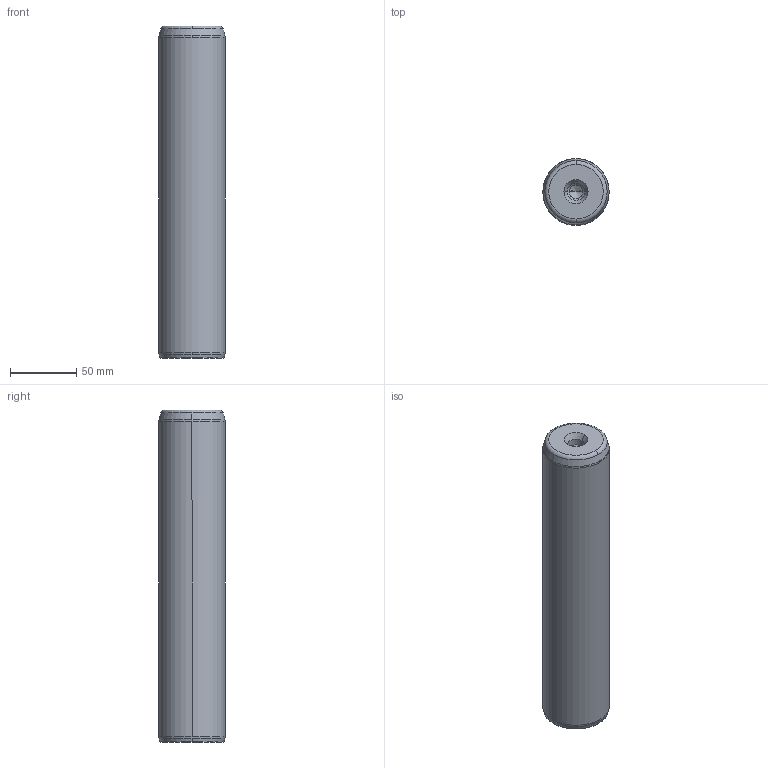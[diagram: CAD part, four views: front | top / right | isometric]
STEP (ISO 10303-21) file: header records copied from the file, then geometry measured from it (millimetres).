
FILE_DESCRIPTION((''),'2;1');
FILE_NAME('P10_050_250.stp','2008-12-23T16:13:52',(''),(''),'Mechanical Desktop 2009','Mechanical Desktop 2009',', , ');
FILE_SCHEMA(('CONFIG_CONTROL_DESIGN'));
Length unit declared in the file: millimetre
Products named in the file (5): Product; ProductAA; blmdl1; ProductA; blmdl1A
Assembly tree (2 placements, depth 3):
  Product
    ProductAA
      blmdl1
  ProductA
  blmdl1A
Bounding box: 50 x 50 x 250 mm (x, y, z)
Volume: 485236.5 mm3; surface area: 43833 mm2
Topology: 1 solids, 1 shells, 26 faces, 66 edges, 41 vertices
Faces by surface type: cone 10, torus 8, cylinder 6, plane 2
Entity records: 1012 total; most frequent: DIRECTION 170, CARTESIAN_POINT 134, ORIENTED_EDGE 128, AXIS2_PLACEMENT_3D 77, EDGE_CURVE 64, CIRCLE 48, VERTEX_POINT 41, EDGE_LOOP 27
